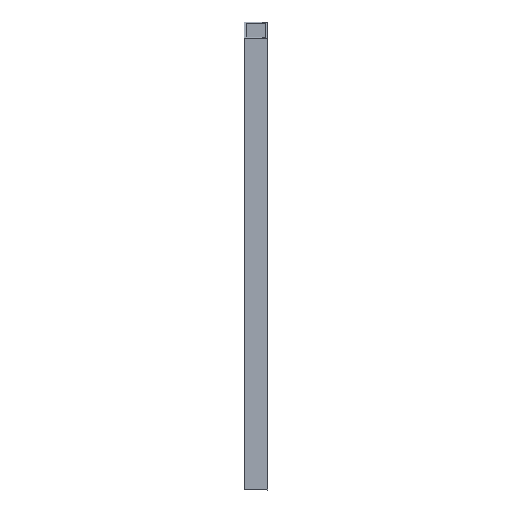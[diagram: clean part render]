
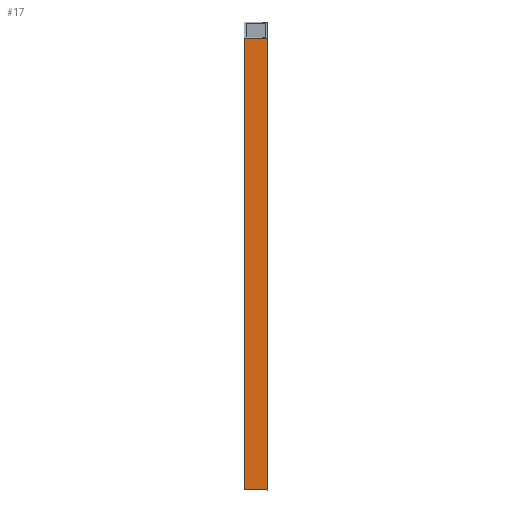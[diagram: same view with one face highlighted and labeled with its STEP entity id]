
A CAD part, front view. The second image highlights one B-rep face of the part: STEP entity #17.
In plain terms, the highlighted planar face has unit normal (0, -1, 0).
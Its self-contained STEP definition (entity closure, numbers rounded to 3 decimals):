
#17 = ADVANCED_FACE('',(#18),#32,.F.);
#18 = FACE_BOUND('',#19,.F.);
#19 = EDGE_LOOP('',(#20,#53,#81,#107));
#20 = ORIENTED_EDGE('',*,*,#21,.F.);
#21 = EDGE_CURVE('',#22,#24,#26,.T.);
#22 = VERTEX_POINT('',#23);
#23 = CARTESIAN_POINT('',(-20.,-20.,-13.509));
#24 = VERTEX_POINT('',#25);
#25 = CARTESIAN_POINT('',(20.,-20.,-14.485));
#26 = SURFACE_CURVE('',#27,(#31,#42),.PCURVE_S1.);
#27 = LINE('',#28,#29);
#28 = CARTESIAN_POINT('',(-10.092,-20.,-13.751));
#29 = VECTOR('',#30,1.);
#30 = DIRECTION('',(1.,0.,-0.024));
#31 = PCURVE('',#32,#37);
#32 = PLANE('',#33);
#33 = AXIS2_PLACEMENT_3D('',#34,#35,#36);
#34 = CARTESIAN_POINT('',(-20.,-20.,-20.));
#35 = DIRECTION('',(0.,1.,0.));
#36 = DIRECTION('',(1.,0.,0.));
#37 = DEFINITIONAL_REPRESENTATION('',(#38),#41);
#38 = B_SPLINE_CURVE_WITH_KNOTS('',1,(#39,#40),.UNSPECIFIED.,.F.,.F.,(2,
    2),(-9.911,30.101),.PIECEWISE_BEZIER_KNOTS.);
#39 = CARTESIAN_POINT('',(0.,-6.491));
#40 = CARTESIAN_POINT('',(40.,-5.515));
#41 = ( GEOMETRIC_REPRESENTATION_CONTEXT(2) 
PARAMETRIC_REPRESENTATION_CONTEXT() REPRESENTATION_CONTEXT('2D SPACE',''
  ) );
#42 = PCURVE('',#43,#48);
#43 = PLANE('',#44);
#44 = AXIS2_PLACEMENT_3D('',#45,#46,#47);
#45 = CARTESIAN_POINT('',(-0.,0.,-0.));
#46 = DIRECTION('',(0.02,-0.573,0.819));
#47 = DIRECTION('',(0.,0.819,0.573));
#48 = DEFINITIONAL_REPRESENTATION('',(#49),#52);
#49 = B_SPLINE_CURVE_WITH_KNOTS('',1,(#50,#51),.UNSPECIFIED.,.F.,.F.,(2,
    2),(-9.911,30.101),.PIECEWISE_BEZIER_KNOTS.);
#50 = CARTESIAN_POINT('',(-24.132,20.004));
#51 = CARTESIAN_POINT('',(-24.691,-20.004));
#52 = ( GEOMETRIC_REPRESENTATION_CONTEXT(2) 
PARAMETRIC_REPRESENTATION_CONTEXT() REPRESENTATION_CONTEXT('2D SPACE',''
  ) );
#53 = ORIENTED_EDGE('',*,*,#54,.T.);
#54 = EDGE_CURVE('',#22,#55,#57,.T.);
#55 = VERTEX_POINT('',#56);
#56 = CARTESIAN_POINT('',(-20.,-20.,764.763));
#57 = SURFACE_CURVE('',#58,(#62,#69),.PCURVE_S1.);
#58 = LINE('',#59,#60);
#59 = CARTESIAN_POINT('',(-20.,-20.,-20.));
#60 = VECTOR('',#61,1.);
#61 = DIRECTION('',(0.,0.,1.));
#62 = PCURVE('',#32,#63);
#63 = DEFINITIONAL_REPRESENTATION('',(#64),#68);
#64 = LINE('',#65,#66);
#65 = CARTESIAN_POINT('',(0.,0.));
#66 = VECTOR('',#67,1.);
#67 = DIRECTION('',(0.,-1.));
#68 = ( GEOMETRIC_REPRESENTATION_CONTEXT(2) 
PARAMETRIC_REPRESENTATION_CONTEXT() REPRESENTATION_CONTEXT('2D SPACE',''
  ) );
#69 = PCURVE('',#70,#75);
#70 = PLANE('',#71);
#71 = AXIS2_PLACEMENT_3D('',#72,#73,#74);
#72 = CARTESIAN_POINT('',(-20.,20.,-20.));
#73 = DIRECTION('',(1.,0.,-0.));
#74 = DIRECTION('',(0.,-1.,0.));
#75 = DEFINITIONAL_REPRESENTATION('',(#76),#80);
#76 = LINE('',#77,#78);
#77 = CARTESIAN_POINT('',(40.,0.));
#78 = VECTOR('',#79,1.);
#79 = DIRECTION('',(0.,-1.));
#80 = ( GEOMETRIC_REPRESENTATION_CONTEXT(2) 
PARAMETRIC_REPRESENTATION_CONTEXT() REPRESENTATION_CONTEXT('2D SPACE',''
  ) );
#81 = ORIENTED_EDGE('',*,*,#82,.F.);
#82 = EDGE_CURVE('',#83,#55,#85,.T.);
#83 = VERTEX_POINT('',#84);
#84 = CARTESIAN_POINT('',(20.,-20.,763.787));
#85 = SURFACE_CURVE('',#86,(#90,#96),.PCURVE_S1.);
#86 = LINE('',#87,#88);
#87 = CARTESIAN_POINT('',(8.896,-20.,764.058));
#88 = VECTOR('',#89,1.);
#89 = DIRECTION('',(-1.,0.,0.024));
#90 = PCURVE('',#32,#91);
#91 = DEFINITIONAL_REPRESENTATION('',(#92),#95);
#92 = B_SPLINE_CURVE_WITH_KNOTS('',1,(#93,#94),.UNSPECIFIED.,.F.,.F.,(2,
    2),(-11.107,28.905),.PIECEWISE_BEZIER_KNOTS.);
#93 = CARTESIAN_POINT('',(40.,-783.787));
#94 = CARTESIAN_POINT('',(0.,-784.763));
#95 = ( GEOMETRIC_REPRESENTATION_CONTEXT(2) 
PARAMETRIC_REPRESENTATION_CONTEXT() REPRESENTATION_CONTEXT('2D SPACE',''
  ) );
#96 = PCURVE('',#97,#102);
#97 = PLANE('',#98);
#98 = AXIS2_PLACEMENT_3D('',#99,#100,#101);
#99 = CARTESIAN_POINT('',(12.747,-365.46,
    522.19));
#100 = DIRECTION('',(-0.02,0.573,-0.819)
  );
#101 = DIRECTION('',(0.,-0.819,-0.573));
#102 = DEFINITIONAL_REPRESENTATION('',(#103),#106);
#103 = B_SPLINE_CURVE_WITH_KNOTS('',1,(#104,#105),.UNSPECIFIED.,.F.,.F.,
  (2,2),(-11.107,28.905),.PIECEWISE_BEZIER_KNOTS.);
#104 = CARTESIAN_POINT('',(-421.559,-7.254));
#105 = CARTESIAN_POINT('',(-422.118,32.754));
#106 = ( GEOMETRIC_REPRESENTATION_CONTEXT(2) 
PARAMETRIC_REPRESENTATION_CONTEXT() REPRESENTATION_CONTEXT('2D SPACE',''
  ) );
#107 = ORIENTED_EDGE('',*,*,#108,.F.);
#108 = EDGE_CURVE('',#24,#83,#109,.T.);
#109 = SURFACE_CURVE('',#110,(#114,#121),.PCURVE_S1.);
#110 = LINE('',#111,#112);
#111 = CARTESIAN_POINT('',(20.,-20.,-20.));
#112 = VECTOR('',#113,1.);
#113 = DIRECTION('',(0.,0.,1.));
#114 = PCURVE('',#32,#115);
#115 = DEFINITIONAL_REPRESENTATION('',(#116),#120);
#116 = LINE('',#117,#118);
#117 = CARTESIAN_POINT('',(40.,0.));
#118 = VECTOR('',#119,1.);
#119 = DIRECTION('',(0.,-1.));
#120 = ( GEOMETRIC_REPRESENTATION_CONTEXT(2) 
PARAMETRIC_REPRESENTATION_CONTEXT() REPRESENTATION_CONTEXT('2D SPACE',''
  ) );
#121 = PCURVE('',#122,#127);
#122 = PLANE('',#123);
#123 = AXIS2_PLACEMENT_3D('',#124,#125,#126);
#124 = CARTESIAN_POINT('',(20.,-20.,-20.));
#125 = DIRECTION('',(-1.,0.,0.));
#126 = DIRECTION('',(0.,1.,0.));
#127 = DEFINITIONAL_REPRESENTATION('',(#128),#132);
#128 = LINE('',#129,#130);
#129 = CARTESIAN_POINT('',(0.,0.));
#130 = VECTOR('',#131,1.);
#131 = DIRECTION('',(0.,-1.));
#132 = ( GEOMETRIC_REPRESENTATION_CONTEXT(2) 
PARAMETRIC_REPRESENTATION_CONTEXT() REPRESENTATION_CONTEXT('2D SPACE',''
  ) );
